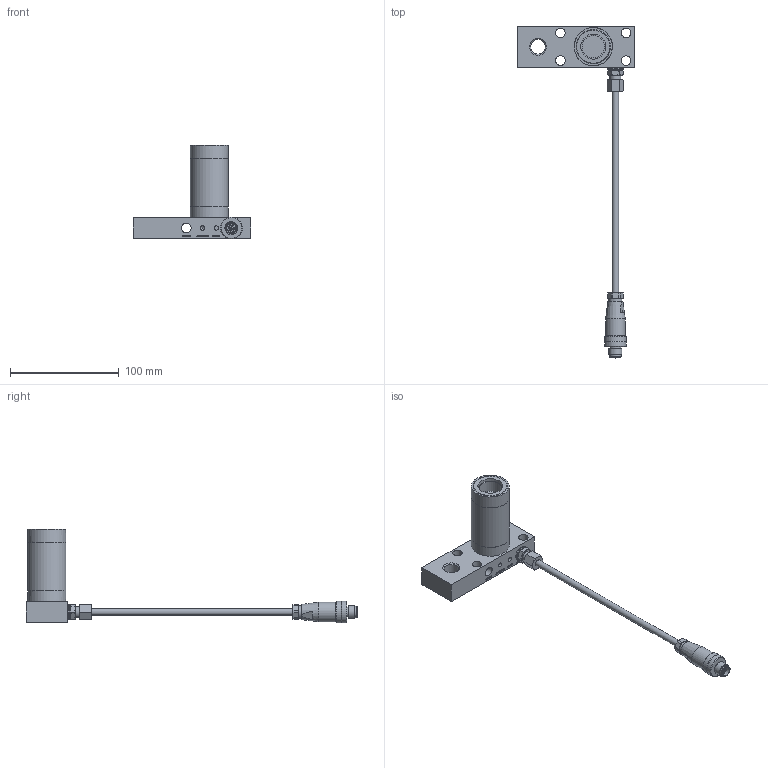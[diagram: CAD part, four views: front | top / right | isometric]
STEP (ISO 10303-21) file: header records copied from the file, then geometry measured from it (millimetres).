
FILE_DESCRIPTION(/* description */ ('ASSEMBLY,BODY,NUTWELD,VFSXHR3,NID.ipt'),/* implementation_level */ '2;1');
FILE_NAME(/* name */ 'C:\PTC\WGM\WFS\Windchill\Workspace\VF,LVDT,SXHR3,TR,S,NHP,N,CUSTOMER.stp',/* time_stamp */ '2015-06-26T10:33:36-04:00',/* author */ ('Simon.Britton'),/* organization */ (''),/* preprocessor_version */ 'ST-DEVELOPER v15.2',/* originating_system */ 'Autodesk Inventor 2014',/* authorisation */ '');
FILE_SCHEMA (('AUTOMOTIVE_DESIGN { 1 0 10303 214 3 1 1 }'));
Length unit declared in the file: millimetre
Products named in the file (5): ASSEMBLY,BODY,NUTWELD,VFSXHR3,NID; TUBE,PLASTIC,CLEAR,4MMIDX6MMOD_0000473953.ipt ; CONNECTOR,  MALE, STR, 5-POS,  M12_0000523820; FIT,BRASS,STR,COMPRESS,6MMTUBE,1_8_BSPP_0000766911; VF,LVDT,SXHR3,TR,S,NHP,N,CUSTOMER
Bounding box: 107.95 x 305.03 x 86.21 mm (x, y, z)
Volume: 129397.9 mm3; surface area: 55513.7 mm2
Topology: 4 solids, 4 shells, 1075 faces, 2790 edges, 1847 vertices
Faces by surface type: plane 700, bspline 240, cylinder 81, cone 49, sphere 5
Full cylindrical faces by diameter (mm): 0.217 x1, 1 x5, 3 x1, 3.962 x4, 4 x2, 6 x2, 7 x1, 8.3 x1, 8.731 x4, 8.738 x4, 9.73 x1, 10 x2, 10.2 x1, 10.5 x1, 12 x2, 12.7 x1, 13.487 x1, 14 x1, 16 x1, 18 x1, 20 x1, 20.05 x1, 20.637 x2, 23.019 x1, 28.829 x3, 31.496 x4, 31.623 x1, 34.925 x2, 35.179 x1
Entity records: 34892 total; most frequent: CARTESIAN_POINT 9482, ORIENTED_EDGE 5354, DIRECTION 4040, EDGE_CURVE 2677, LINE 1914, VECTOR 1914, VERTEX_POINT 1811, EDGE_LOOP 1292
